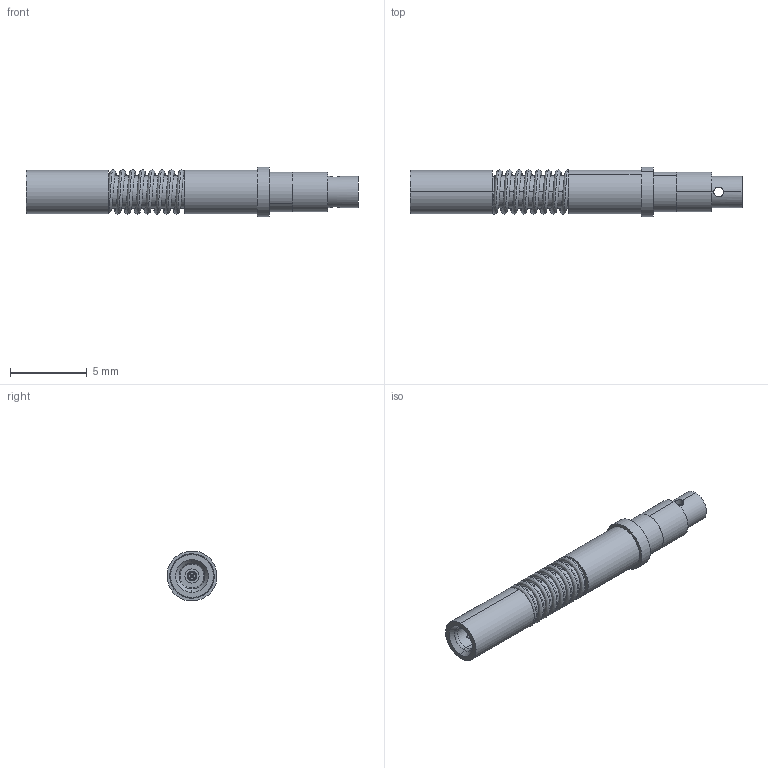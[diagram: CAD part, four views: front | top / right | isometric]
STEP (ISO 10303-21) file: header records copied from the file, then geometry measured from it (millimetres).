
FILE_DESCRIPTION (( 'STEP AP203' ), '1' );
FILE_NAME ('SF9911-60001.STEP', '2017-05-04T20:37:32', ( '' ), ( '' ), 'SwSTEP 2.0', 'SolidWorks 2016', '' );
FILE_SCHEMA (( 'CONFIG_CONTROL_DESIGN' ));
Length unit declared in the file: inch
Products named in the file (9): 048-38-002_ASSEMBLED; 012-38-051; 244-38-017; 033-38-026; 244-38-018; 012-38-053; SF9911-60001; 012-38-052; 025-38-000
Assembly tree (7 placements, depth 2):
  244-38-017
  SF9911-60001
    012-38-052
    025-38-000
    048-38-002_ASSEMBLED
    012-38-051
    033-38-026
    244-38-018
    012-38-053
Bounding box: 21.64 x 3.26 x 3.26 mm (x, y, z)
Volume: 39.2 mm3; surface area: 445.8 mm2
Topology: 10 solids, 10 shells, 323 faces, 813 edges, 520 vertices
Faces by surface type: plane 176, cylinder 131, cone 12, bspline 2, torus 2
Entity records: 12377 total; most frequent: CARTESIAN_POINT 3358, DIRECTION 1841, ORIENTED_EDGE 1626, EDGE_CURVE 813, AXIS2_PLACEMENT_3D 713, VERTEX_POINT 520, LINE 415, VECTOR 415
